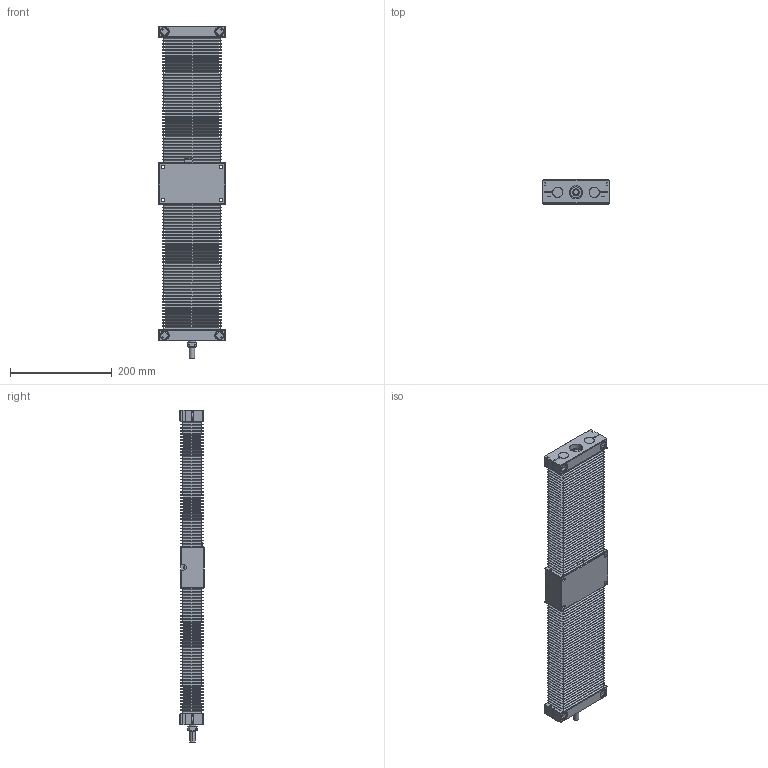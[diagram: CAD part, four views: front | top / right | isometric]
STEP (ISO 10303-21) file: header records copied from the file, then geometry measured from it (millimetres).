
FILE_DESCRIPTION (( 'STEP AP214' ), '1' );
FILE_NAME ('TKC2010B-300H0C-Ä£×é.step', '2025-08-25T08:39:28', ( '' ), ( '' ), 'SwSTEP 2.0', 'SolidWorks 2024', '' );
FILE_SCHEMA (( 'AUTOMOTIVE_DESIGN' ));
Length unit declared in the file: millimetre
Products named in the file (4): TKC20-300-01; TKC20-300-03; TKC2010B-300H0C-模组; TKC20-02
Assembly tree (4 placements, depth 2):
  TKC2010B-300H0C-模组
    TKC20-02
    TKC20-300-01
    TKC20-300-03  x2
Bounding box: 130 x 48 x 653.5 mm (x, y, z)
Volume: 2202564.2 mm3; surface area: 689148 mm2
Topology: 14 solids, 14 shells, 1764 faces, 3919 edges, 2228 vertices
Faces by surface type: plane 1305, cylinder 384, cone 36, torus 28, bspline 11
Entity records: 56836 total; most frequent: CARTESIAN_POINT 29062, ORIENTED_EDGE 5654, DIRECTION 5457, EDGE_CURVE 2827, LINE 1969, VECTOR 1969, AXIS2_PLACEMENT_3D 1744, VERTEX_POINT 1688
